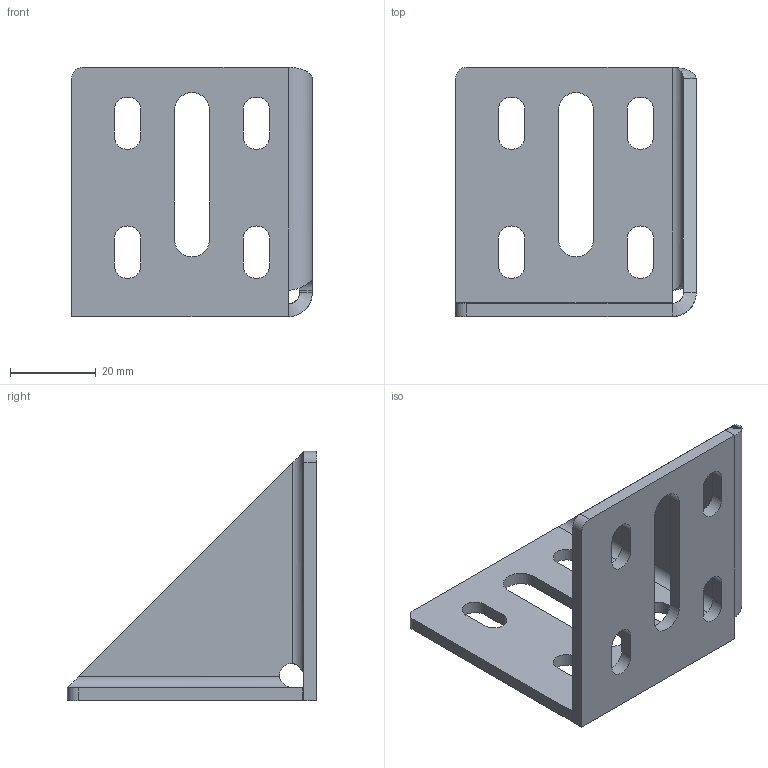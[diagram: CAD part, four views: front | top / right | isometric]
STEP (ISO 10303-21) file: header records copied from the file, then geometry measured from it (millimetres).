
FILE_DESCRIPTION (( 'STEP AP214' ), '1' );
FILE_NAME ('8105s.STEP', '2015-04-02T13:16:14', ( '' ), ( '' ), 'SwSTEP 2.0', 'SolidWorks 2014', '' );
FILE_SCHEMA (( 'AUTOMOTIVE_DESIGN' ));
Length unit declared in the file: millimetre
Products named in the file (1): 8105s
Bounding box: 56 x 58 x 58 mm (x, y, z)
Volume: 19254.1 mm3; surface area: 15380.6 mm2
Topology: 1 solids, 1 shells, 73 faces, 197 edges, 126 vertices
Faces by surface type: plane 37, cylinder 32, bspline 4
Entity records: 2457 total; most frequent: CARTESIAN_POINT 543, ORIENTED_EDGE 394, DIRECTION 381, EDGE_CURVE 197, LINE 129, VECTOR 129, VERTEX_POINT 126, AXIS2_PLACEMENT_3D 126
